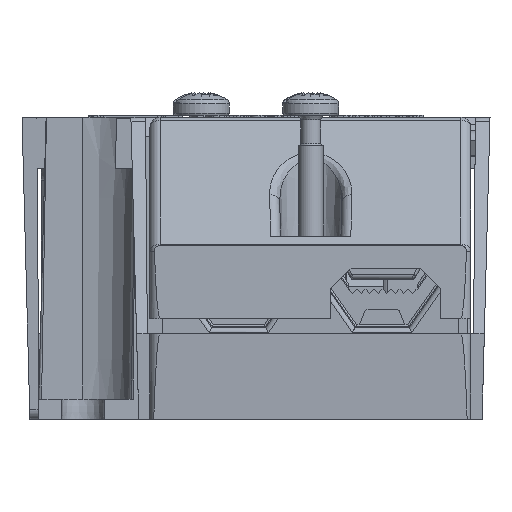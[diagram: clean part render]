
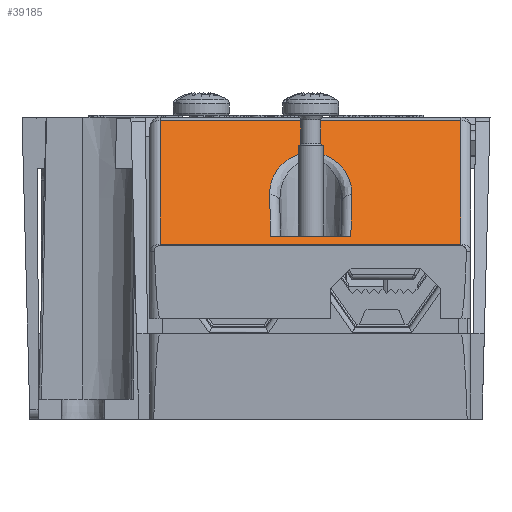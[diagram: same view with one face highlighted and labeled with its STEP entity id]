
A CAD part, front view. The second image highlights one B-rep face of the part: STEP entity #39185.
In plain terms, the highlighted planar face has unit normal (0, -0.707, 0.707) as drawn and (0.707, 0, 0.707) by its records, which use the part's own axes.
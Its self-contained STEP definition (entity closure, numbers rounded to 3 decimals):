
#2092=FACE_BOUND($,#6677,.T.);
#2093=FACE_BOUND($,#6678,.T.);
#2746=PLANE($,#41790);
#6677=EDGE_LOOP($,(#31197,#31198,#31199,#31200));
#6678=EDGE_LOOP($,(#31201,#31202,#31203,#31204));
#9814=LINE($,#59432,#14244);
#9816=LINE($,#59498,#14246);
#9822=LINE($,#59511,#14252);
#9823=LINE($,#59514,#14253);
#9824=LINE($,#59516,#14254);
#9825=LINE($,#59518,#14255);
#9826=LINE($,#59519,#14256);
#14244=VECTOR($,#47576,5.789);
#14246=VECTOR($,#47588,5.789);
#14252=VECTOR($,#47604,7.964);
#14253=VECTOR($,#47605,17.415);
#14254=VECTOR($,#47606,29.9);
#14255=VECTOR($,#47607,17.415);
#14256=VECTOR($,#47608,29.9);
#17185=ELLIPSE($,#41783,5.787,4.09);
#18718=VERTEX_POINT($,#59429);
#18719=VERTEX_POINT($,#59431);
#18722=VERTEX_POINT($,#59482);
#18724=VERTEX_POINT($,#59496);
#18727=VERTEX_POINT($,#59512);
#18728=VERTEX_POINT($,#59513);
#18729=VERTEX_POINT($,#59515);
#18730=VERTEX_POINT($,#59517);
#23226=EDGE_CURVE($,#18718,#18719,#9814,.T.);
#23230=EDGE_CURVE($,#18722,#18718,#17185,.T.);
#23233=EDGE_CURVE($,#18724,#18722,#9816,.T.);
#23240=EDGE_CURVE($,#18719,#18724,#9822,.T.);
#23241=EDGE_CURVE($,#18727,#18728,#9823,.T.);
#23242=EDGE_CURVE($,#18729,#18727,#9824,.T.);
#23243=EDGE_CURVE($,#18730,#18729,#9825,.T.);
#23244=EDGE_CURVE($,#18728,#18730,#9826,.T.);
#31197=ORIENTED_EDGE($,*,*,#23240,.F.);
#31198=ORIENTED_EDGE($,*,*,#23226,.F.);
#31199=ORIENTED_EDGE($,*,*,#23230,.F.);
#31200=ORIENTED_EDGE($,*,*,#23233,.F.);
#31201=ORIENTED_EDGE($,*,*,#23241,.F.);
#31202=ORIENTED_EDGE($,*,*,#23242,.F.);
#31203=ORIENTED_EDGE($,*,*,#23243,.F.);
#31204=ORIENTED_EDGE($,*,*,#23244,.F.);
#39185=ADVANCED_FACE($,(#2092,#2093),#2746,.T.);
#41783=AXIS2_PLACEMENT_3D($,#59484,#47582,#47583);
#41790=AXIS2_PLACEMENT_3D($,#59510,#47602,#47603);
#47576=DIRECTION($,(0.707,0.019,-0.707));
#47582=DIRECTION('center_axis',(0.707,0.,0.707));
#47583=DIRECTION('ref_axis',(-0.707,0.,
0.707));
#47588=DIRECTION($,(-0.707,0.019,0.707));
#47602=DIRECTION('center_axis',(0.707,0.,0.707));
#47603=DIRECTION('ref_axis',(0.707,0.,-0.707));
#47604=DIRECTION($,(0.,1.,0.));
#47605=DIRECTION($,(-0.707,0.,0.707));
#47606=DIRECTION($,(0.,-1.,0.));
#47607=DIRECTION($,(0.707,0.,-0.707));
#47608=DIRECTION($,(0.,1.,0.));
#59429=CARTESIAN_POINT('',(17.12,-44.119,9.693));
#59431=CARTESIAN_POINT('',(21.213,-44.012,5.6));
#59432=CARTESIAN_POINT($,(21.69,-44.,5.122));
#59482=CARTESIAN_POINT('',(17.12,-35.941,9.693));
#59484=CARTESIAN_POINT('Origin',(17.013,-40.03,9.8));
#59496=CARTESIAN_POINT('',(21.213,-36.049,5.6));
#59498=CARTESIAN_POINT($,(20.7,-36.035,6.113));
#59510=CARTESIAN_POINT('Origin',(22.313,-56.013,4.5));
#59511=CARTESIAN_POINT($,(21.213,-48.022,5.6));
#59512=CARTESIAN_POINT('',(22.02,-55.013,4.793));
#59513=CARTESIAN_POINT('',(9.705,-55.013,17.107));
#59514=CARTESIAN_POINT($,(23.688,-55.013,3.125));
#59515=CARTESIAN_POINT('',(22.02,-25.113,4.793));
#59516=CARTESIAN_POINT($,(22.02,-40.063,4.793));
#59517=CARTESIAN_POINT('',(9.705,-25.113,17.107));
#59518=CARTESIAN_POINT($,(23.438,-25.113,3.375));
#59519=CARTESIAN_POINT($,(9.705,-56.013,17.107));
